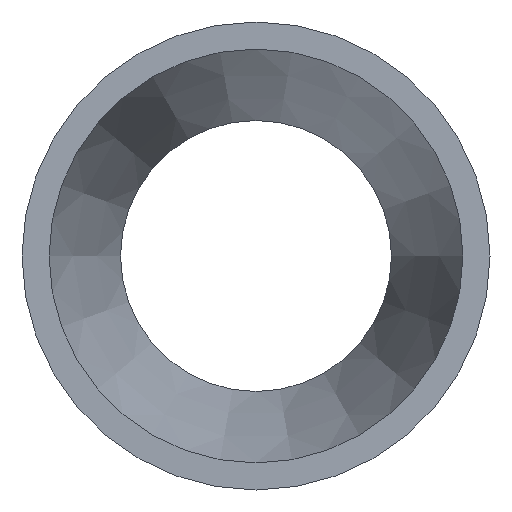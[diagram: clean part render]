
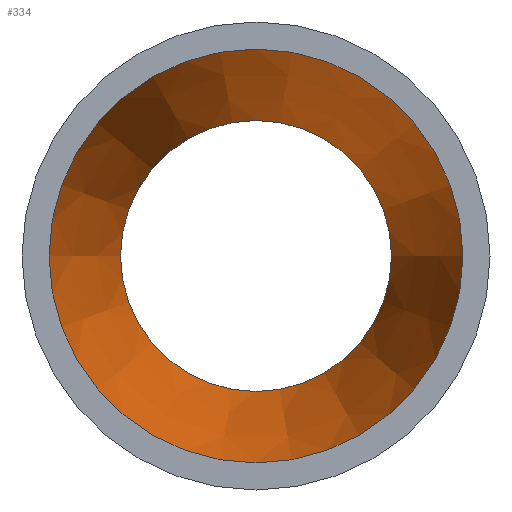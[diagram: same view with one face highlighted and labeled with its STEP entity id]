
A CAD part, left-side view. The second image highlights one B-rep face of the part: STEP entity #334.
In plain terms, the highlighted conical face has half-angle 13.266 degrees and reference radius 17.653 mm.
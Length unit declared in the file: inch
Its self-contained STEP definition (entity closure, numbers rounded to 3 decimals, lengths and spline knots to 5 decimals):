
#66=FACE_OUTER_BOUND('',#82,.T.);
#82=EDGE_LOOP('',(#235,#236,#237,#238,#239,#240));
#104=LINE('',#580,#114);
#114=VECTOR('',#447,0.695);
#127=CIRCLE('',#375,0.55);
#128=CIRCLE('',#376,0.84);
#129=CIRCLE('',#377,0.84);
#130=CIRCLE('',#378,0.55);
#159=VERTEX_POINT('',#576);
#160=VERTEX_POINT('',#577);
#161=VERTEX_POINT('',#579);
#162=VERTEX_POINT('',#581);
#192=EDGE_CURVE('',#159,#160,#127,.T.);
#193=EDGE_CURVE('',#160,#161,#104,.T.);
#194=EDGE_CURVE('',#162,#161,#128,.T.);
#195=EDGE_CURVE('',#161,#162,#129,.T.);
#196=EDGE_CURVE('',#160,#159,#130,.T.);
#235=ORIENTED_EDGE('',*,*,#192,.T.);
#236=ORIENTED_EDGE('',*,*,#193,.T.);
#237=ORIENTED_EDGE('',*,*,#194,.F.);
#238=ORIENTED_EDGE('',*,*,#195,.F.);
#239=ORIENTED_EDGE('',*,*,#193,.F.);
#240=ORIENTED_EDGE('',*,*,#196,.T.);
#314=CONICAL_SURFACE('',#374,0.695,0.232);
#334=ADVANCED_FACE('',(#66),#314,.F.);
#374=AXIS2_PLACEMENT_3D('',#575,#443,#444);
#375=AXIS2_PLACEMENT_3D('',#578,#445,#446);
#376=AXIS2_PLACEMENT_3D('',#582,#448,#449);
#377=AXIS2_PLACEMENT_3D('',#583,#450,#451);
#378=AXIS2_PLACEMENT_3D('',#584,#452,#453);
#443=DIRECTION('center_axis',(-1.,0.,0.));
#444=DIRECTION('ref_axis',(0.,1.,0.));
#445=DIRECTION('center_axis',(1.,0.,0.));
#446=DIRECTION('ref_axis',(0.,1.,0.));
#447=DIRECTION('',(-0.973,-0.229,0.));
#448=DIRECTION('center_axis',(1.,0.,0.));
#449=DIRECTION('ref_axis',(0.,1.,0.));
#450=DIRECTION('center_axis',(1.,0.,0.));
#451=DIRECTION('ref_axis',(0.,1.,0.));
#452=DIRECTION('center_axis',(1.,0.,0.));
#453=DIRECTION('ref_axis',(0.,1.,0.));
#575=CARTESIAN_POINT('Origin',(1.875,0.,0.));
#576=CARTESIAN_POINT('',(2.49,0.55,0.));
#577=CARTESIAN_POINT('',(2.49,-0.55,0.));
#578=CARTESIAN_POINT('Origin',(2.49,0.,0.));
#579=CARTESIAN_POINT('',(1.26,-0.84,0.));
#580=CARTESIAN_POINT('',(1.875,-0.695,0.));
#581=CARTESIAN_POINT('',(1.26,0.84,0.));
#582=CARTESIAN_POINT('Origin',(1.26,0.,0.));
#583=CARTESIAN_POINT('Origin',(1.26,0.,0.));
#584=CARTESIAN_POINT('Origin',(2.49,0.,0.));
